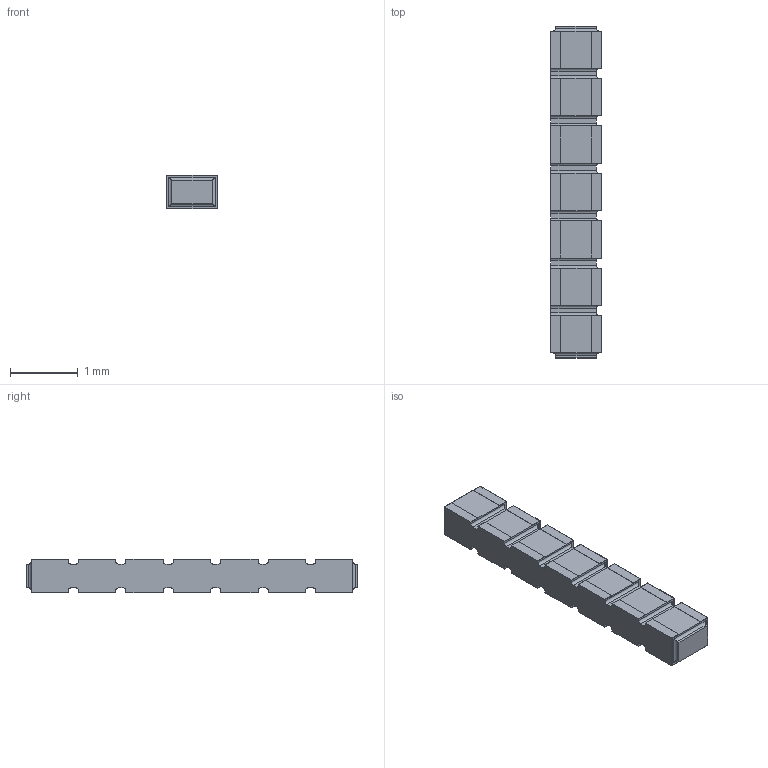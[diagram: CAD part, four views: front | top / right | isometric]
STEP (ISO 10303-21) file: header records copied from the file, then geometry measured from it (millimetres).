
FILE_DESCRIPTION(/* description */ (''),/* implementation_level */ '2;1');
FILE_NAME(/* name */ 'S:\DOCUMENT\AUTOCAD\3D_Modèles\10_3D-pour-VISHAY-COM\PRA\PRA073\PRA073-C2_à_C8\10_IGES\PRA073C7_B-or-N-or-G.stp',/* time_stamp */ '2017-12-21T10:45:00+01:00',/* author */ ('dparmentier'),/* organization */ ('unknown'),/* preprocessor_version */ 'ST-DEVELOPER v17',/* originating_system */ 'Autodesk Inventor 2018',/* authorisation */ '');
FILE_SCHEMA (('AUTOMOTIVE_DESIGN { 1 0 10303 214 3 1 1 }'));
Length unit declared in the file: millimetre
Products named in the file (1): PRA073C7_B-or-N-or-G
Bounding box: 0.75 x 4.9 x 0.5 mm (x, y, z)
Volume: 1.7 mm3; surface area: 26.5 mm2
Topology: 9 solids, 9 shells, 284 faces, 760 edges, 496 vertices
Faces by surface type: plane 216, cylinder 68
Entity records: 8777 total; most frequent: CARTESIAN_POINT 1541, ORIENTED_EDGE 1520, DIRECTION 1434, EDGE_CURVE 760, LINE 656, VECTOR 656, VERTEX_POINT 496, AXIS2_PLACEMENT_3D 389
